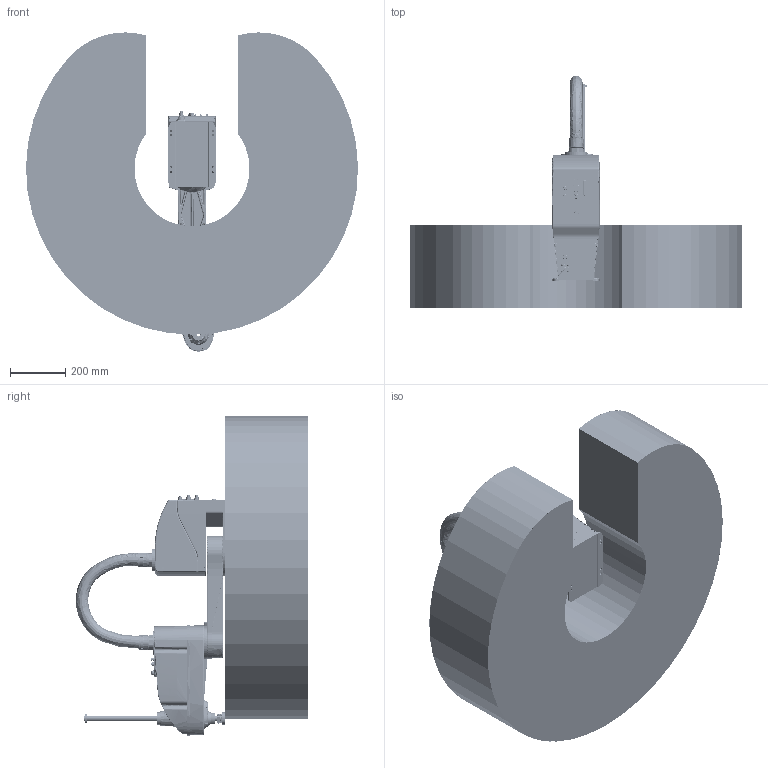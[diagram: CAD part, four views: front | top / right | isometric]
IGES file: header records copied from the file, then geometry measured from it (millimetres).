
Start section: SolidWorks IGES file using analytic representation for surfaces
Global section: file name: D:\QKM_PDM\01_SP研发\021AH6\05_对外发布模型\AH6-0600-0204-3000\IGS\AH6-0600-0204-3000-T0-2.0.0.IGS; native system: SolidWorks 2017; preprocessor: SolidWorks 2017; author: 0025; date: 201224.153958; units: millimetre
Bounding box: 1199.9 x 839.32 x 1153.62 mm (x, y, z)
Surface area: 4440910.1 mm2 (no closed solid volume)
Topology: 0 solids, 0 shells, 6714 faces, 71913 edges, 71804 vertices
Faces by surface type: bspline 5010, revolution 1704
